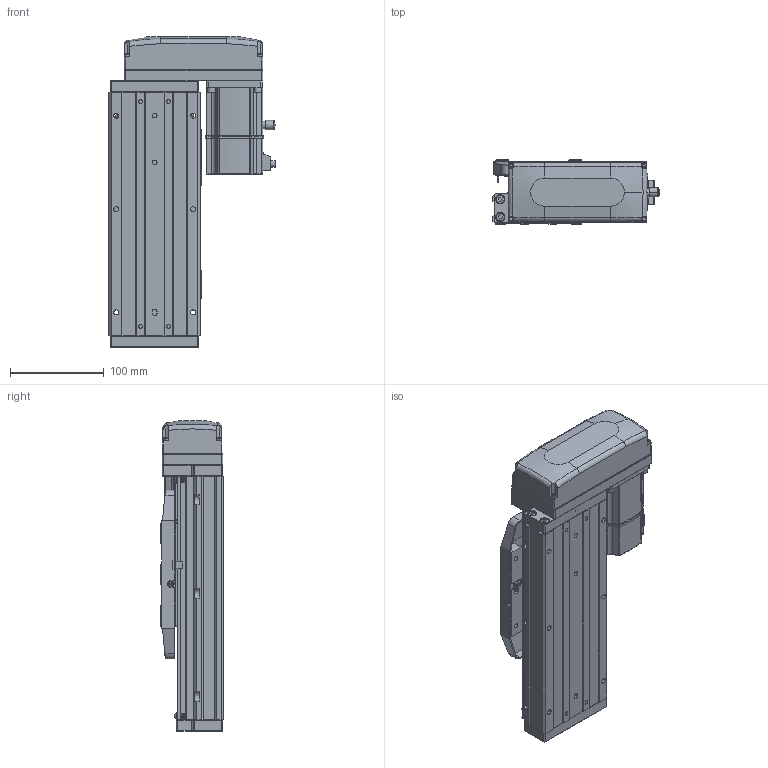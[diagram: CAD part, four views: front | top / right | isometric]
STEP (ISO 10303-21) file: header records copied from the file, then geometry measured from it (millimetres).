
FILE_DESCRIPTION (( 'STEP AP203' ), '1' );
FILE_NAME ('CTHA100-50-BL-M20-C4L.step', '2022-07-06T08:57:32', ( '微软用户' ), ( '微软中国' ), 'SwSTEP 2.0', 'SolidWorks 2020', '' );
FILE_SCHEMA (( 'CONFIG_CONTROL_DESIGN' ));
Length unit declared in the file: millimetre
Products named in the file (19): CTHA60-021; CTHA100-031; KTHA100-001_260; GBT77-2000 M3×3; CTHA86-030; KTHA100-004; GBT 70.1-M3℅6; GBT 70.3-M3℅6; KTHA100-005; GBT70.1 M5℅16; CTHA86-015-1_CTHA86-015-2; GB¨uT 70.2-M3¡Á5_M3¡Á6; CTHA60-016; CTHA86-033; EE_SX911P_R; _X2_4E0983F1_X0_200W_1; CTHA100-50-BL-M20-C4L; CTHA60-017; CTHA100-002
Assembly tree (64 placements, depth 2):
  CTHA100-50-BL-M20-C4L
    KTHA100-001_260
    KTHA100-004
    KTHA100-005
    GB¨uT 70.2-M3¡Á5_M3¡Á6  x10
    EE_SX911P_R  x3
    CTHA60-017  x3
    CTHA60-021  x2
    GBT77-2000 M3×3  x6
    GBT 70.1-M3℅6  x10
    GBT70.1 M5℅16  x14
    CTHA60-016  x2
    _X2_4E0983F1_X0_200W_1
    CTHA100-002
    CTHA100-031
    CTHA86-030  x2
    GBT 70.3-M3℅6  x4
    CTHA86-015-1_CTHA86-015-2
    CTHA86-033
Bounding box: 177.7 x 68 x 331 mm (x, y, z)
Volume: 1916097.9 mm3; surface area: 356189.5 mm2
Topology: 66 solids, 66 shells, 2569 faces, 6135 edges, 3796 vertices
Faces by surface type: plane 1332, cylinder 671, cone 343, torus 124, bspline 75, sphere 24
Entity records: 42762 total; most frequent: CARTESIAN_POINT 8475, DIRECTION 6544, ORIENTED_EDGE 6386, EDGE_CURVE 3193, AXIS2_PLACEMENT_3D 2237, LINE 2070, VECTOR 2070, VERTEX_POINT 2016
